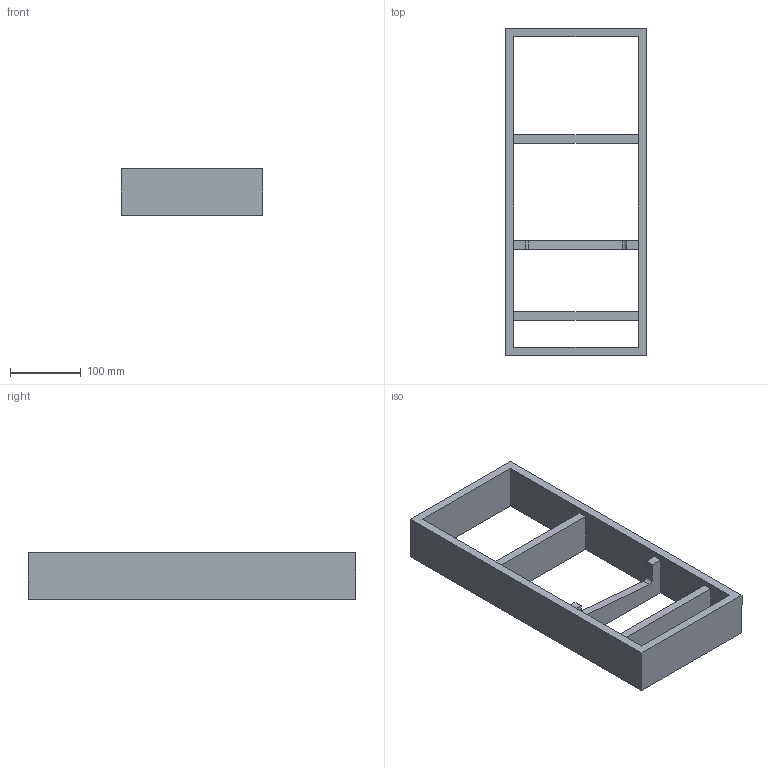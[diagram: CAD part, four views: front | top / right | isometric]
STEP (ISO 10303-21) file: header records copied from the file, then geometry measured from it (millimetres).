
FILE_DESCRIPTION (( 'STEP AP214' ), '1' );
FILE_NAME ('Vario Messer_Modul_H65_NL500_B200_ZE_Innenfront_Alu_Buche.step', '2010-10-07T06:11:55', ( 'grass' ), ( '' ), 'SwSTEP 2.0', 'SolidWorks 2010', '' );
FILE_SCHEMA (( 'AUTOMOTIVE_DESIGN' ));
Length unit declared in the file: millimetre
Products named in the file (1): Vario Messer_Modul_H65_NL500_B200_ZE_Innenfront_Alu_Buche
Bounding box: 200 x 463 x 65 mm (x, y, z)
Volume: 1313818.9 mm3; surface area: 258787.5 mm2
Topology: 1 solids, 1 shells, 25 faces, 78 edges, 52 vertices
Faces by surface type: plane 23, cylinder 2
Entity records: 906 total; most frequent: ORIENTED_EDGE 156, CARTESIAN_POINT 156, DIRECTION 134, EDGE_CURVE 78, LINE 74, VECTOR 74, VERTEX_POINT 52, EDGE_LOOP 30
